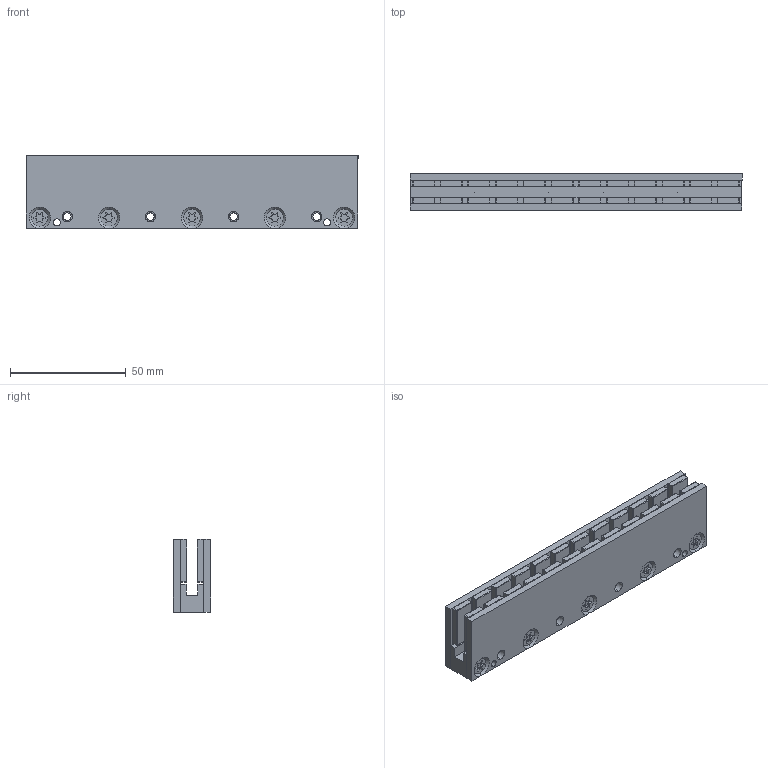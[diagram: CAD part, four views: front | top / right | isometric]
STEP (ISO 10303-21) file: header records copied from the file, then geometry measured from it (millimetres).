
FILE_DESCRIPTION (( 'STEP AP203' ), '1' );
FILE_NAME ('MY32-144 3D.STEP', '2020-10-10T10:15:01', ( '' ), ( '' ), 'SwSTEP 2.0', 'SolidWorks 2018', '' );
FILE_SCHEMA (( 'CONFIG_CONTROL_DESIGN' ));
Length unit declared in the file: millimetre
Products named in the file (6): MY44 screw; CP32-144; IL34 magnet; MY32-144 3D; CS32-144; MP32-144
Assembly tree (26 placements, depth 3):
  MY32-144 3D
    MP32-144  x2
      CP32-144
      IL34 magnet
    CS32-144
    MY44 screw  x10
Bounding box: 143.7 x 16.15 x 31.7 mm (x, y, z)
Volume: 51542.3 mm3; surface area: 43179.8 mm2
Topology: 37 solids, 37 shells, 1128 faces, 2694 edges, 1444 vertices
Faces by surface type: cylinder 552, plane 320, sphere 192, cone 64
Entity records: 6176 total; most frequent: DIRECTION 950, CARTESIAN_POINT 870, ORIENTED_EDGE 800, EDGE_CURVE 400, AXIS2_PLACEMENT_3D 372, VERTEX_POINT 250, LINE 206, VECTOR 206
